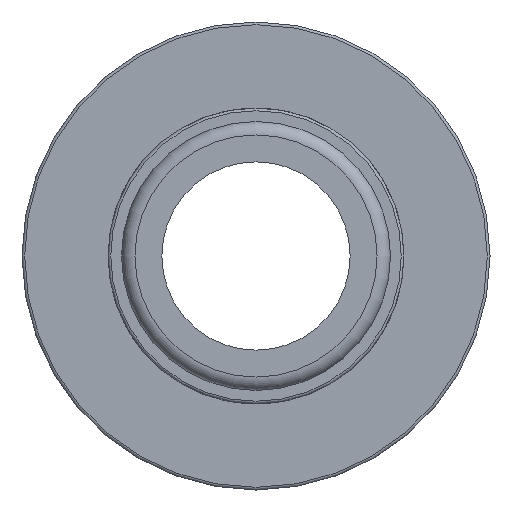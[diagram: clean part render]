
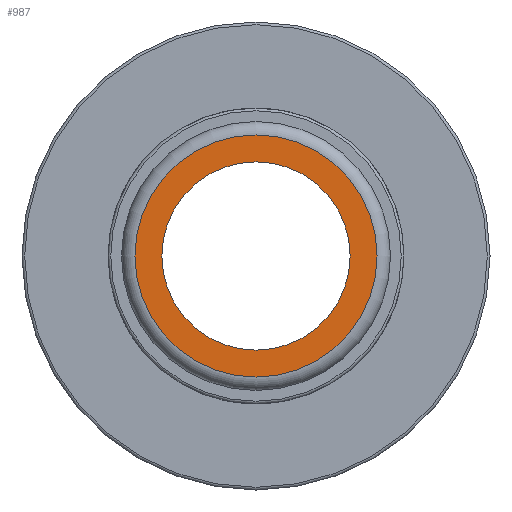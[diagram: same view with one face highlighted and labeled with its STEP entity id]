
A CAD part, left-side view. The second image highlights one B-rep face of the part: STEP entity #987.
In plain terms, the highlighted planar face has unit normal (-1, 0, 0).
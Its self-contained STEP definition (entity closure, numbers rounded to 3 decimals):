
#181=PLANE('',#1101);
#217=FACE_BOUND('',#343,.T.);
#273=FACE_OUTER_BOUND('',#342,.T.);
#342=EDGE_LOOP('',(#913));
#343=EDGE_LOOP('',(#914));
#402=CIRCLE('',#1099,11.898);
#404=CIRCLE('',#1102,9.254);
#500=VERTEX_POINT('',#1872);
#502=VERTEX_POINT('',#1877);
#640=EDGE_CURVE('',#500,#500,#402,.T.);
#642=EDGE_CURVE('',#502,#502,#404,.T.);
#913=ORIENTED_EDGE('',*,*,#640,.F.);
#914=ORIENTED_EDGE('',*,*,#642,.T.);
#987=ADVANCED_FACE('',(#273,#217),#181,.T.);
#1099=AXIS2_PLACEMENT_3D('',#1873,#1380,#1381);
#1101=AXIS2_PLACEMENT_3D('',#1876,#1384,#1385);
#1102=AXIS2_PLACEMENT_3D('',#1878,#1386,#1387);
#1380=DIRECTION('center_axis',(1.,0.,0.));
#1381=DIRECTION('ref_axis',(0.,-1.,0.));
#1384=DIRECTION('center_axis',(-1.,0.,0.));
#1385=DIRECTION('ref_axis',(0.,0.,1.));
#1386=DIRECTION('center_axis',(1.,0.,0.));
#1387=DIRECTION('ref_axis',(0.,0.,-1.));
#1872=CARTESIAN_POINT('',(-86.,11.898,0.));
#1873=CARTESIAN_POINT('Origin',(-86.,0.,0.));
#1876=CARTESIAN_POINT('Origin',(-86.,13.221,0.));
#1877=CARTESIAN_POINT('',(-86.,9.254,0.));
#1878=CARTESIAN_POINT('Origin',(-86.,0.,0.));
